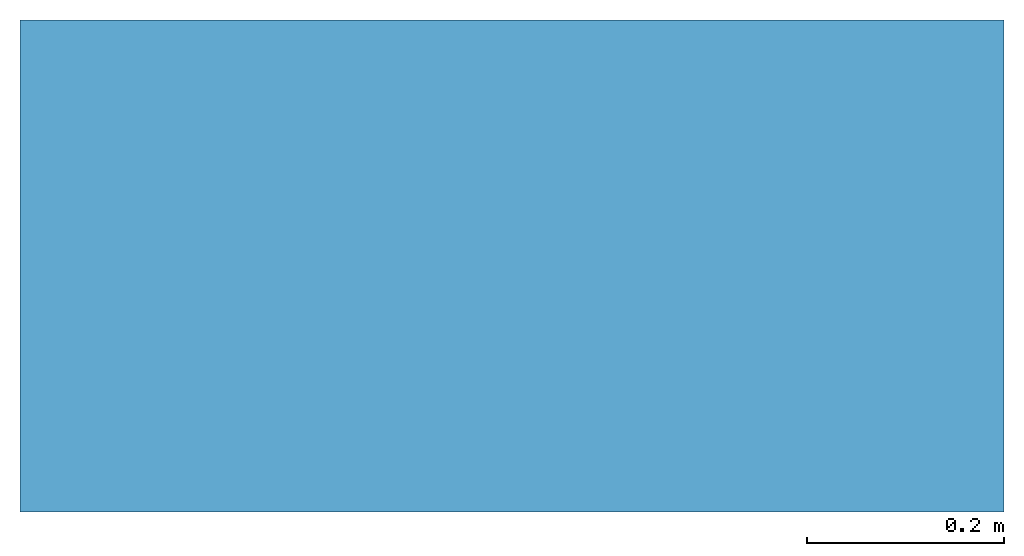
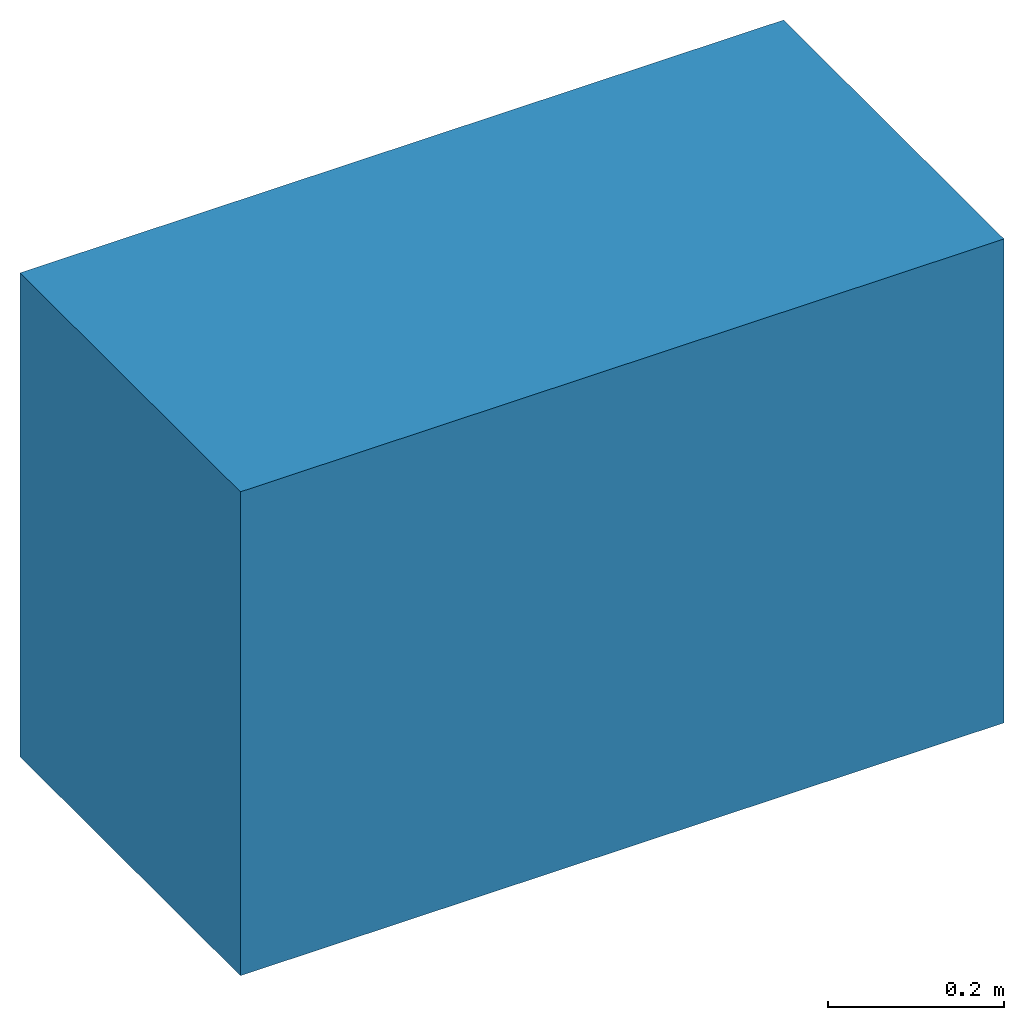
# One storey: 1 slab.
"""IFC4 building model written with IfcOpenShell, lengths in metres."""

from ifc_helpers import new_model, entity, si_unit, converted_unit, direction, frame, frame_2d, origin, place, context, subcontext, project, spatial, rectangle, extrude, material, type_object, element, save


model = new_model("IFC4")

# Units and contexts
model_context = context("Model", 3, precision=1e-05, world=origin(), true_north=direction((6.123031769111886e-17, 1.0)))
body_context = subcontext(model_context, "Body", "Model", "MODEL_VIEW")
ifc_project = project(units=[si_unit("LENGTHUNIT", "METRE"), converted_unit("PLANEANGLEUNIT", "DEGREE", entity("IfcPlaneAngleMeasure", 0.017453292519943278), si_unit("PLANEANGLEUNIT", "RADIAN"), dimensions=[0, 0, 0, 0, 0, 0, 0]), si_unit("AREAUNIT", "SQUARE_METRE")], contexts=[model_context])

# Site, building, storey
site_placement = place(None, origin())
site = spatial("IfcSite", under=ifc_project, at=site_placement, Name="Default", CompositionType="ELEMENT")
building_placement = place(site_placement, origin())
building = spatial("IfcBuilding", under=site, at=building_placement, CompositionType="ELEMENT")
storey_placement = place(building_placement, origin())
storey = spatial("IfcBuildingStorey", under=building, at=storey_placement, Name="Ebene 0", CompositionType="ELEMENT", Elevation=0.0)

# Slab
ifc_material = material(Name="DB_Magerbeton", Category="DB_Beton")
slab_type = type_object("IfcSlabType", Name="DB_BSK_96C_Fundament_Pass:DB_BSK_96C_Fundament_Pass", PredefinedType="BASESLAB", material=ifc_material)
slab_placement = place(storey_placement, origin())
element("IfcSlab", 1, at=slab_placement, inside=storey, type_object=slab_type, Name="DB_BSK_96C_Fundament_Pass:DB_BSK_96C_Fundament_Pass", ObjectType="DB_BSK_96C_Fundament_Pass:DB_BSK_96C_Fundament_Pass", PredefinedType="BASESLAB", context=body_context, shape_type="SweptSolid", body=[
    extrude(rectangle(XDim=1.0000000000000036, YDim=0.5000000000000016, at=frame_2d((-4.996003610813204e-16, 0.0), x_axis=(1.0, 0.0))), frame((0.45438990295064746, 0.2500000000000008, -1.9249999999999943), z_axis=(0.0, 0.0, 1.0), x_axis=(-1.0, 0.0, 0.0)), (0.0, 0.0, 1.0), 0.11999999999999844),
    extrude(rectangle(XDim=1.0000000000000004, YDim=0.5000000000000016, at=frame_2d((5.551115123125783e-17, 0.0), x_axis=(1.0, 0.0))), frame((0.45438990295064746, 0.2500000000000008, -1.8049999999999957), z_axis=(0.0, 0.0, 1.0), x_axis=(-1.0, 0.0, 0.0)), (0.0, 0.0, 1.0), 0.5500000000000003),
])

save(model, "model.ifc")
